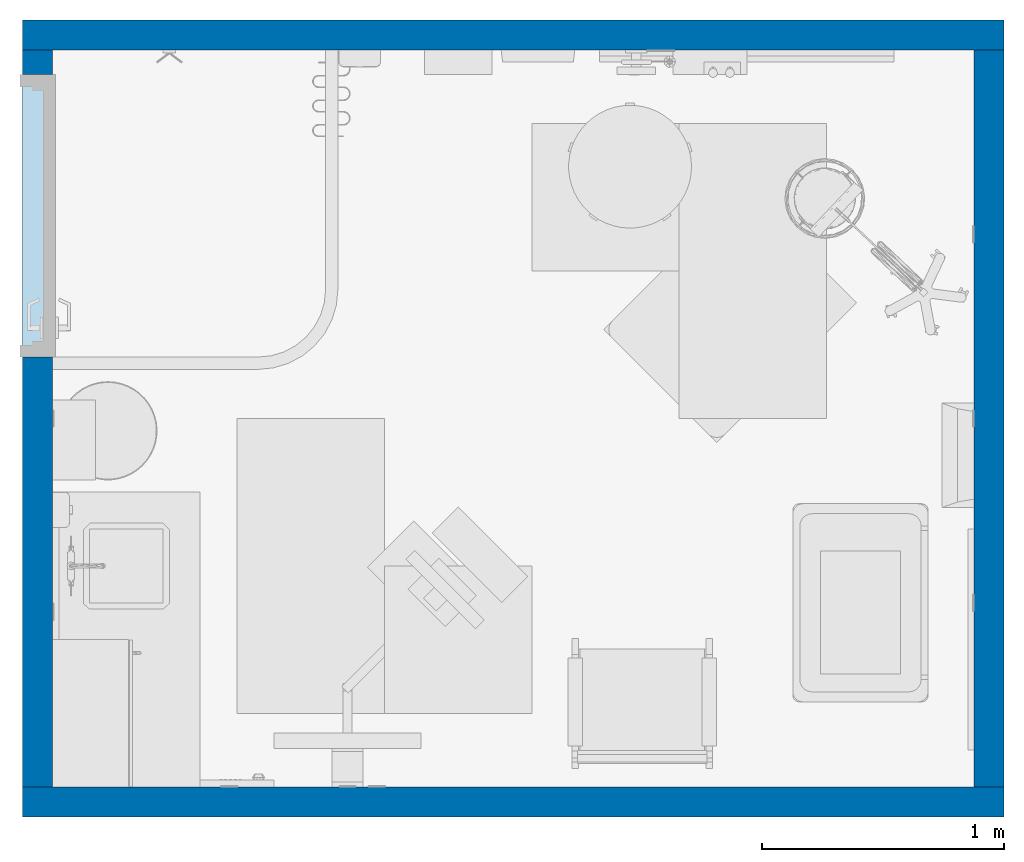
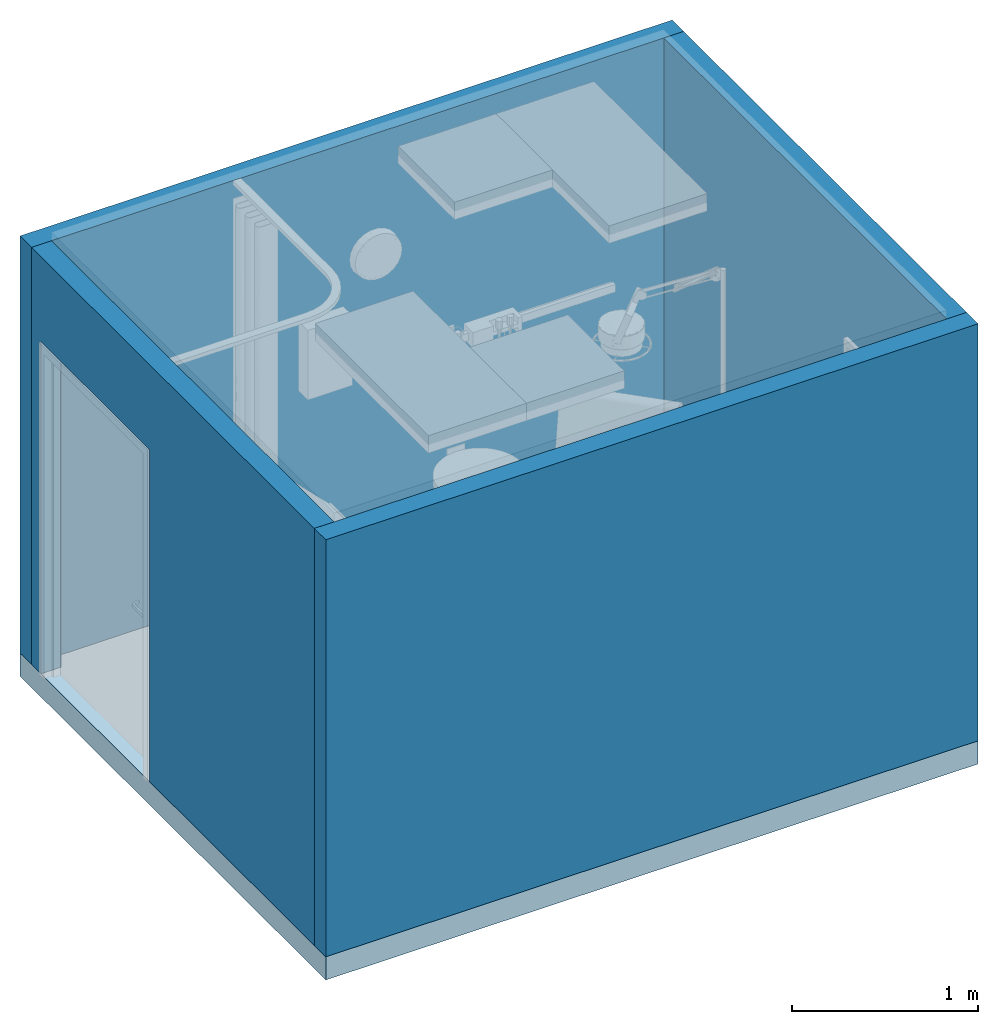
# One storey, part 1 of 10: 4 walls, 1 slab, 1 opening.
"""IFC2X3 building model written with IfcOpenShell, lengths in feet."""

import ifcopenshell
import ifcopenshell.guid

model = None  # the IFC model being written
_history = None  # IfcOwnerHistory: only IFC2X3 demands one
_inside = {}  # id of a spatial element -> (the spatial element, [elements in it])
_under = {}  # id of a project, library or spatial element -> (it, [spatial elements below it])
_declared = {}  # id of a project -> (the project, [libraries it declares])
_typed = {}  # id of a type object -> (the type object, [elements of that type])
_made_of = {}  # id of a material, layer set ... -> (it, [elements and type objects made of it])


def new_model(schema):
    """Start an empty IFC model of exactly this schema.

    Asked for "IFC4X3", IfcOpenShell would pick the latest addendum, in which some entities
    have other attributes; the version numbers below select the first issue.
    IFC2X3 requires an IfcOwnerHistory on every rooted entity: one is made here for all.
    """
    global model, _history
    if schema == "IFC4X3":
        model = ifcopenshell.file(schema_version=(4, 3, 0, 0))
    else:
        model = ifcopenshell.file(schema=schema)
    _inside.clear()
    _under.clear()
    _declared.clear()
    _typed.clear()
    _made_of.clear()
    _history = None
    if model.schema == "IFC2X3":
        org = make("IfcOrganization", Name="unknown")
        user = make(
            "IfcPersonAndOrganization",
            ThePerson=make("IfcPerson", FamilyName="unknown"),
            TheOrganization=org,
        )
        app = make(
            "IfcApplication",
            ApplicationDeveloper=org,
            Version="unknown",
            ApplicationFullName="unknown",
            ApplicationIdentifier="unknown",
        )
        _history = make(
            "IfcOwnerHistory",
            OwningUser=user,
            OwningApplication=app,
            ChangeAction="ADDED",
            CreationDate=0,
        )
    return model


def make(cls, **values):
    """One entity of the class cls with the attributes given. An attribute that is None is left unset."""
    return model.create_entity(
        cls, **{name: value for name, value in values.items() if value is not None}
    )


def entity(cls, *values):
    """Any entity or typed value of the class cls, its attributes in the order of the schema. None: left unset."""
    e = model.create_entity(cls)
    for i, value in enumerate(values):
        if value is not None:
            e[i] = value
    return e


def rooted(cls, **values):
    """An entity with a GlobalId (a new one), such as an element, a storey or a relation."""
    return make(cls, GlobalId=ifcopenshell.guid.new(), OwnerHistory=_history, **values)


def si_unit(unit_type, name, prefix=None):
    """IfcSIUnit, for example si_unit("LENGTHUNIT", "METRE", prefix="MILLI")."""
    return make("IfcSIUnit", UnitType=unit_type, Prefix=prefix, Name=name)


def converted_unit(unit_type, name, factor, base, dimensions=None, offset=None):
    """IfcConversionBasedUnit, such as the inch: factor (a typed value) times the base unit."""
    return make(
        "IfcConversionBasedUnit"
        if offset is None
        else "IfcConversionBasedUnitWithOffset",
        ConversionOffset=offset,
        Dimensions=None
        if dimensions is None
        else entity("IfcDimensionalExponents", *dimensions),
        UnitType=unit_type,
        Name=name,
        ConversionFactor=make(
            "IfcMeasureWithUnit", ValueComponent=factor, UnitComponent=base
        ),
    )


def derived_unit(unit_type, elements):
    """IfcDerivedUnit: a product of units, each with its exponent."""
    return make(
        "IfcDerivedUnit",
        Elements=[
            make("IfcDerivedUnitElement", Unit=unit, Exponent=power)
            for unit, power in elements
        ],
        UnitType=unit_type,
    )


def assignment(units):
    """IfcUnitAssignment: the units of a project."""
    return None if units is None else make("IfcUnitAssignment", Units=units)


def point(xyz):
    """IfcCartesianPoint."""
    return None if xyz is None else make("IfcCartesianPoint", Coordinates=xyz)


def direction(xyz):
    """IfcDirection."""
    return None if xyz is None else make("IfcDirection", DirectionRatios=xyz)


def frame(location, z_axis=None, x_axis=None):
    """IfcAxis2Placement3D, a coordinate frame: its origin and axes. An axis left out is left unset."""
    return make(
        "IfcAxis2Placement3D",
        Location=point(location),
        Axis=direction(z_axis),
        RefDirection=direction(x_axis),
    )


def frame_2d(location, x_axis=None):
    """IfcAxis2Placement2D, a coordinate frame in the plane: its origin and x axis."""
    return make(
        "IfcAxis2Placement2D", Location=point(location), RefDirection=direction(x_axis)
    )


def origin():
    """The frame at (0, 0, 0) with its axes left unset."""
    return frame((0.0, 0.0, 0.0))


def place(relative_to, where):
    """IfcLocalPlacement: puts the frame where relative to a parent placement (None: the world)."""
    return make(
        "IfcLocalPlacement", PlacementRelTo=relative_to, RelativePlacement=where
    )


def context(
    kind, dimensions, precision=None, world=None, true_north=None, identifier=None
):
    """IfcGeometricRepresentationContext, for example the 3D "Model" context."""
    return make(
        "IfcGeometricRepresentationContext",
        ContextIdentifier=identifier,
        ContextType=kind,
        CoordinateSpaceDimension=dimensions,
        Precision=precision,
        WorldCoordinateSystem=world,
        TrueNorth=true_north,
    )


def subcontext(parent, identifier, kind, view, scale=None):
    """IfcGeometricRepresentationSubContext, for example "Body" below "Model"."""
    return make(
        "IfcGeometricRepresentationSubContext",
        ContextIdentifier=identifier,
        ContextType=kind,
        ParentContext=parent,
        TargetScale=scale,
        TargetView=view,
    )


def project(units=None, contexts=None):
    """IfcProject with its units and contexts."""
    return rooted(
        "IfcProject",
        Name="project",
        RepresentationContexts=contexts,
        UnitsInContext=assignment(units),
    )


def spatial(cls, under=None, at=None, **own):
    """A site, building, storey or space (cls), placed at a placement, below another one or the project."""
    s = rooted(cls, ObjectPlacement=at, **own)
    if under is not None:
        _under.setdefault(under.id(), (under, []))[1].append(s)
    return s


def profile(cls, at=None, kind="AREA", **sizes):
    """A parametric profile (cls). Its sizes go by their IFC names, for example OverallWidth=200.0."""
    return make(cls, ProfileType=kind, Position=at, **sizes)


def rectangle(**sizes):
    """IfcRectangleProfileDef."""
    return profile("IfcRectangleProfileDef", **sizes)


def extrude(swept, where, along, depth):
    """IfcExtrudedAreaSolid: the profile swept, set in the frame where, extruded along a direction by depth."""
    return make(
        "IfcExtrudedAreaSolid",
        SweptArea=swept,
        Position=where,
        ExtrudedDirection=direction(along),
        Depth=depth,
    )


def shape(context_of_items, identifier, shape_type, items):
    """IfcShapeRepresentation: the items that make up one representation, for example the "Body"."""
    return make(
        "IfcShapeRepresentation",
        ContextOfItems=context_of_items,
        RepresentationIdentifier=identifier,
        RepresentationType=shape_type,
        Items=items,
    )


def material(Name=None, Category=None):
    """IfcMaterial."""
    return make("IfcMaterial", Name=Name, Category=Category)


def layer(
    of_material, thickness, ventilated=None, Name=None, Category=None, Priority=None
):
    """IfcMaterialLayer: one layer of a wall or slab, of a material (None: an air gap)."""
    return make(
        "IfcMaterialLayer",
        Material=of_material,
        LayerThickness=thickness,
        IsVentilated=ventilated,
        Name=Name,
        Category=Category,
        Priority=Priority,
    )


def layer_set(layers, Name=None):
    """IfcMaterialLayerSet."""
    return make("IfcMaterialLayerSet", MaterialLayers=layers, LayerSetName=Name)


def layer_usage(for_layer_set, set_direction, sense, offset, extent=None):
    """IfcMaterialLayerSetUsage: how a layer set lies in its element."""
    return make(
        "IfcMaterialLayerSetUsage",
        ForLayerSet=for_layer_set,
        LayerSetDirection=set_direction,
        DirectionSense=sense,
        OffsetFromReferenceLine=offset,
        ReferenceExtent=extent,
    )


def made_of(thing, what):
    """Note that an element or type object is made of a material, layer set ...; save() writes the relation."""
    if what is not None:
        _made_of.setdefault(what.id(), (what, []))[1].append(thing)
    return thing


def type_object(cls, material=None, **own):
    """A type object (cls), such as IfcWallType, which elements share."""
    return made_of(rooted(cls, **own), material)


def element(
    cls,
    number,
    at=None,
    inside=None,
    cuts=None,
    type_object=None,
    material=None,
    context=None,
    identifier="Body",
    shape_type=None,
    held_by="IfcProductDefinitionShape",
    body=None,
    shapes=None,
    **own,
):
    """One element of the class cls, such as IfcWall. Its Tag is "e" and its number.

    at: its placement. inside: the storey or other place that contains it. cuts: it is an
    opening in that element (IfcRelVoidsElement). A single representation is given by context,
    identifier, shape_type and body (its items); several are given by shapes. held_by: the class
    of the entity that holds the representations. save() writes the other relations.
    """
    e = rooted(cls, Tag="e%d" % number, ObjectPlacement=at, **own)
    if body is not None:
        shapes = [shape(context, identifier, shape_type, body)]
    if shapes is not None:
        e.Representation = make(held_by, Representations=shapes)
    if inside is not None:
        _inside.setdefault(inside.id(), (inside, []))[1].append(e)
    if cuts is not None:
        rooted(
            "IfcRelVoidsElement", RelatingBuildingElement=cuts, RelatedOpeningElement=e
        )
    if type_object is not None:
        _typed.setdefault(type_object.id(), (type_object, []))[1].append(e)
    return made_of(e, material)


def aggregate(whole, parts):
    """IfcRelAggregates: a whole, such as a stair, and the parts it consists of."""
    return rooted("IfcRelAggregates", RelatingObject=whole, RelatedObjects=parts)


def save(model, path):
    """Write the relations noted so far, then the file.

    IfcRelAggregates (storeys below a building ...), IfcRelContainedInSpatialStructure (elements
    in a storey), IfcRelDefinesByType, IfcRelAssociatesMaterial and IfcRelDeclares: one each for
    every whole, place, type object, material and project.
    """
    for whole, parts in _under.values():
        aggregate(whole, parts)
    for where, things in _inside.values():
        rooted(
            "IfcRelContainedInSpatialStructure",
            RelatedElements=things,
            RelatingStructure=where,
        )
    for kind, things in _typed.values():
        rooted("IfcRelDefinesByType", RelatedObjects=things, RelatingType=kind)
    for what, things in _made_of.values():
        rooted("IfcRelAssociatesMaterial", RelatedObjects=things, RelatingMaterial=what)
    for by, libraries in _declared.values():
        rooted("IfcRelDeclares", RelatingContext=by, RelatedDefinitions=libraries)
    model.write(path)


model = new_model("IFC2X3")

# Units and contexts
model_context = context("Model", 3, precision=0.0001, world=origin(), true_north=direction((6.12303176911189e-17, 1.0)))
body_context = subcontext(model_context, "Body", "Model", "MODEL_VIEW")
ifc_project = project(units=[converted_unit("LENGTHUNIT", "FOOT", entity("IfcRatioMeasure", 0.3048), si_unit("LENGTHUNIT", "METRE"), dimensions=[1, 0, 0, 0, 0, 0, 0]), converted_unit("AREAUNIT", "SQUARE FOOT", entity("IfcRatioMeasure", 0.09290304), si_unit("AREAUNIT", "SQUARE_METRE"), dimensions=[2, 0, 0, 0, 0, 0, 0]), converted_unit("VOLUMEUNIT", "CUBIC FOOT", entity("IfcRatioMeasure", 0.028316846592), si_unit("VOLUMEUNIT", "CUBIC_METRE"), dimensions=[3, 0, 0, 0, 0, 0, 0]), converted_unit("PLANEANGLEUNIT", "DEGREE", entity("IfcRatioMeasure", 0.0174532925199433), si_unit("PLANEANGLEUNIT", "RADIAN"), dimensions=[0, 0, 0, 0, 0, 0, 0]), si_unit("MASSUNIT", "GRAM", prefix="KILO"), derived_unit("MASSDENSITYUNIT", [(si_unit("MASSUNIT", "GRAM", prefix="KILO"), 1), (si_unit("LENGTHUNIT", "METRE"), -3)]), si_unit("TIMEUNIT", "SECOND"), si_unit("FREQUENCYUNIT", "HERTZ"), si_unit("THERMODYNAMICTEMPERATUREUNIT", "DEGREE_CELSIUS"), derived_unit("THERMALTRANSMITTANCEUNIT", [(si_unit("MASSUNIT", "GRAM", prefix="KILO"), 1), (si_unit("THERMODYNAMICTEMPERATUREUNIT", "KELVIN"), -1), (si_unit("TIMEUNIT", "SECOND"), -3)]), derived_unit("VOLUMETRICFLOWRATEUNIT", [(si_unit("LENGTHUNIT", "METRE"), 3), (si_unit("TIMEUNIT", "SECOND"), -1)]), si_unit("ELECTRICCURRENTUNIT", "AMPERE"), si_unit("ELECTRICVOLTAGEUNIT", "VOLT"), si_unit("POWERUNIT", "WATT"), si_unit("FORCEUNIT", "NEWTON"), si_unit("ILLUMINANCEUNIT", "LUX"), si_unit("LUMINOUSFLUXUNIT", "LUMEN"), si_unit("LUMINOUSINTENSITYUNIT", "CANDELA"), derived_unit("USERDEFINED", [(si_unit("MASSUNIT", "GRAM", prefix="KILO"), -1), (si_unit("LENGTHUNIT", "METRE"), -2), (si_unit("TIMEUNIT", "SECOND"), 3), (si_unit("LUMINOUSFLUXUNIT", "LUMEN"), 1)]), derived_unit("LINEARVELOCITYUNIT", [(si_unit("LENGTHUNIT", "METRE"), 1), (si_unit("TIMEUNIT", "SECOND"), -1)]), si_unit("PRESSUREUNIT", "PASCAL"), derived_unit("USERDEFINED", [(si_unit("LENGTHUNIT", "METRE"), -2), (si_unit("MASSUNIT", "GRAM", prefix="KILO"), 1), (si_unit("TIMEUNIT", "SECOND"), -2)])], contexts=[model_context])

# Site, building, storey
site_placement = place(None, origin())
site = spatial("IfcSite", under=ifc_project, at=site_placement, Name="Default", CompositionType="ELEMENT")
building_placement = place(site_placement, origin())
building = spatial("IfcBuilding", under=site, at=building_placement, Name="OUTPATIENT / PACT CLINIC (Ch. 265)", CompositionType="ELEMENT")
storey_placement = place(building_placement, origin())
storey = spatial("IfcBuildingStorey", under=building, at=storey_placement, Name="DATUM", CompositionType="ELEMENT", Elevation=0.0)

# Slab
ifc_material = material(Name="<Unnamed>")
ifc_layer_1 = layer(ifc_material, 0.5)
ifc_layer_set_1 = layer_set([ifc_layer_1], Name="Floor:Generic - 6\"")
ifc_layer_usage_1 = layer_usage(ifc_layer_set_1, "AXIS3", "POSITIVE", 0.0)
slab_placement = place(storey_placement, origin())
element("IfcSlab", 1, at=slab_placement, inside=storey, material=ifc_layer_usage_1, Name="Floor:Generic - 6\"", ObjectType="Floor:Generic - 6\"", PredefinedType="FLOOR", context=body_context, shape_type="SweptSolid", body=[
    extrude(rectangle(XDim=10.8125000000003, YDim=13.3125, at=frame_2d((-5.6843418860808e-14, -1.4210854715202e-14), x_axis=(1.0, 0.0))), frame((242.516410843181, -854.855546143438, 0.0), z_axis=(0.0, 0.0, -1.0), x_axis=(0.0, 1.0, 0.0)), (0.0, 0.0, 1.0), 0.5),
])

# Walls
ifc_layer_2 = layer(ifc_material, 0.40625)
ifc_layer_set_2 = layer_set([ifc_layer_2], Name="Basic Wall:Interior - 4 7/8\"")
ifc_layer_usage_2 = layer_usage(ifc_layer_set_2, "AXIS2", "NEGATIVE", 0.203125)
wall_type = type_object("IfcWallType", Name="Basic Wall:Interior - 4 7/8\"", PredefinedType="STANDARD", material=ifc_layer_set_2)
wall_1_placement = place(storey_placement, frame((235.860160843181, -849.652421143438, 0.0)))
element("IfcWallStandardCase", 2, at=wall_1_placement, inside=storey, type_object=wall_type, material=ifc_layer_usage_2, Name="Basic Wall:Interior - 4 7/8\"", ObjectType="Basic Wall:Interior - 4 7/8\"", context=body_context, shape_type="SweptSolid", body=[
    extrude(rectangle(XDim=13.3125, YDim=0.40625, at=frame_2d((6.65625, 2.15244488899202e-14), x_axis=(-1.0, 0.0))), origin(), (0.0, 0.0, 1.0), 9.0),
])
ifc_layer_usage_3 = layer_usage(ifc_layer_set_2, "AXIS2", "POSITIVE", -0.203125)
wall_2_placement = place(storey_placement, frame((235.860160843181, -860.058671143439, 0.0)))
element("IfcWallStandardCase", 3, at=wall_2_placement, inside=storey, type_object=wall_type, material=ifc_layer_usage_3, Name="Basic Wall:Interior - 4 7/8\"", ObjectType="Basic Wall:Interior - 4 7/8\"", context=body_context, shape_type="SweptSolid", body=[
    extrude(rectangle(XDim=13.3125, YDim=0.40625, at=frame_2d((6.65625, 2.13995487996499e-14), x_axis=(-1.0, 0.0))), origin(), (0.0, 0.0, 1.0), 9.0),
])
ifc_layer_usage_4 = layer_usage(ifc_layer_set_2, "AXIS2", "NEGATIVE", 0.203125)
wall_3_placement = place(storey_placement, frame((248.969535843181, -849.855546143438, 0.0), z_axis=(0.0, 0.0, 1.0), x_axis=(0.0, -1.0, 0.0)))
element("IfcWallStandardCase", 4, at=wall_3_placement, inside=storey, type_object=wall_type, material=ifc_layer_usage_4, Name="Basic Wall:Interior - 4 7/8\"", ObjectType="Basic Wall:Interior - 4 7/8\"", context=body_context, shape_type="SweptSolid", body=[
    extrude(rectangle(XDim=10.0000000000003, YDim=0.40625, at=frame_2d((5.00000000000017, 7.82707232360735e-15), x_axis=(-1.0, 0.0))), origin(), (0.0, 0.0, 1.0), 9.0),
])

# Wall, opening
ifc_layer_usage_5 = layer_usage(ifc_layer_set_2, "AXIS2", "POSITIVE", -0.203125)
wall_4_placement = place(storey_placement, frame((236.063285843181, -849.855546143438, 0.0), z_axis=(0.0, 0.0, 1.0), x_axis=(0.0, -1.0, 0.0)))
wall_4 = element("IfcWallStandardCase", 5, at=wall_4_placement, inside=storey, type_object=wall_type, material=ifc_layer_usage_5, Name="Basic Wall:Interior - 4 7/8\"", ObjectType="Basic Wall:Interior - 4 7/8\"", context=body_context, shape_type="SweptSolid", body=[
    extrude(rectangle(XDim=10.0000000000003, YDim=0.40625, at=frame_2d((5.00000000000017, 7.82707232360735e-15), x_axis=(-1.0, 0.0))), origin(), (0.0, 0.0, 1.0), 9.0),
])
opening_placement = place(wall_4_placement, frame((0.333333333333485, -0.203125, 0.0)))
element("IfcOpeningElement", 6, at=opening_placement, cuts=wall_4, Name="Single - Flush:42\" x 84\":1", ObjectType="Opening", context=body_context, shape_type="SweptSolid", body=[
    extrude(rectangle(XDim=3.83333333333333, YDim=7.16666666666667, at=frame_2d((3.58333333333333, 1.91666666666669), x_axis=(0.0, -1.0))), frame((0.0, 0.0, 0.0), z_axis=(0.0, 1.0, 0.0), x_axis=(0.0, 0.0, 1.0)), (0.0, 0.0, 1.0), 0.40625),
])

save(model, "model.ifc")
